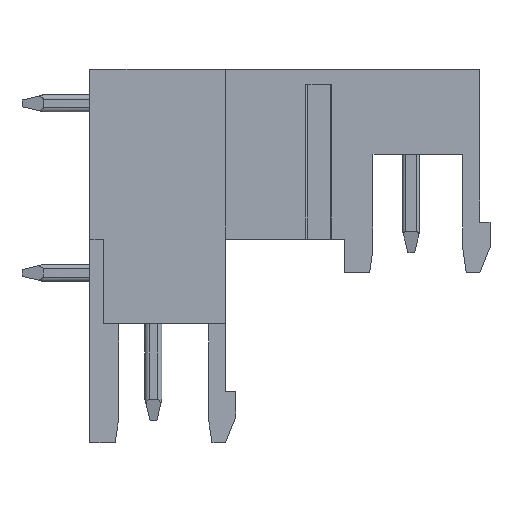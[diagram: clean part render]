
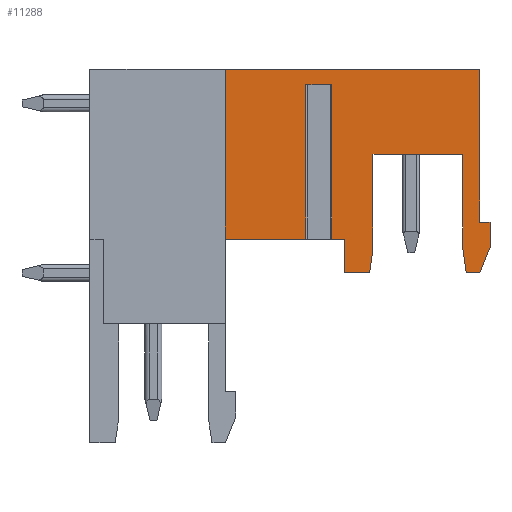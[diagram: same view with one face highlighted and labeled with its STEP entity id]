
A CAD part, front view. The second image highlights one B-rep face of the part: STEP entity #11288.
In plain terms, the highlighted planar face has unit normal (0, -1, 0).
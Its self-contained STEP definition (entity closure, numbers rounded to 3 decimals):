
#57=DIRECTION('',(1.,0.,0.));
#58=VECTOR('',#57,4.736);
#59=CARTESIAN_POINT('',(8.,5.,-10.));
#60=LINE('',#59,#58);
#99=DIRECTION('',(1.,0.,0.));
#100=VECTOR('',#99,0.736);
#101=CARTESIAN_POINT('',(14.264,5.,-10.));
#102=LINE('',#101,#100);
#1893=DIRECTION('',(-1.,0.,0.));
#1894=VECTOR('',#1893,15.);
#1895=CARTESIAN_POINT('',(23.,5.,0.));
#1896=LINE('',#1895,#1894);
#2663=DIRECTION('',(0.,0.,-1.));
#2664=VECTOR('',#2663,2.);
#2665=CARTESIAN_POINT('',(15.,5.,-10.));
#2666=LINE('',#2665,#2664);
#2675=DIRECTION('',(-1.,0.,0.));
#2676=VECTOR('',#2675,5.3);
#2677=CARTESIAN_POINT('',(22.,5.,-5.));
#2678=LINE('',#2677,#2676);
#2679=DIRECTION('',(0.,0.,-1.));
#2680=VECTOR('',#2679,5.6);
#2681=CARTESIAN_POINT('',(16.7,5.,-5.));
#2682=LINE('',#2681,#2680);
#2683=DIRECTION('',(-0.141,0.,-0.99));
#2684=VECTOR('',#2683,1.414);
#2685=CARTESIAN_POINT('',(16.7,5.,-10.6));
#2686=LINE('',#2685,#2684);
#2687=DIRECTION('',(-1.,0.,0.));
#2688=VECTOR('',#2687,1.527);
#2689=CARTESIAN_POINT('',(14.264,5.,-0.9));
#2690=LINE('',#2689,#2688);
#2691=DIRECTION('',(-0.371,0.,-0.928));
#2692=VECTOR('',#2691,1.616);
#2693=CARTESIAN_POINT('',(23.6,5.,-10.5));
#2694=LINE('',#2693,#2692);
#2695=DIRECTION('',(-0.141,0.,0.99));
#2696=VECTOR('',#2695,1.414);
#2697=CARTESIAN_POINT('',(22.2,5.,-12.));
#2698=LINE('',#2697,#2696);
#2703=DIRECTION('',(0.,0.,-1.));
#2704=VECTOR('',#2703,5.6);
#2705=CARTESIAN_POINT('',(22.,5.,-5.));
#2706=LINE('',#2705,#2704);
#2907=DIRECTION('',(1.,0.,0.));
#2908=VECTOR('',#2907,1.5);
#2909=CARTESIAN_POINT('',(15.,5.,-12.));
#2910=LINE('',#2909,#2908);
#3097=DIRECTION('',(0.,0.,1.));
#3098=VECTOR('',#3097,1.5);
#3099=CARTESIAN_POINT('',(23.6,5.,-10.5));
#3100=LINE('',#3099,#3098);
#3217=DIRECTION('',(1.,0.,0.));
#3218=VECTOR('',#3217,0.8);
#3219=CARTESIAN_POINT('',(22.2,5.,-12.));
#3220=LINE('',#3219,#3218);
#3225=DIRECTION('',(-1.,0.,0.));
#3226=VECTOR('',#3225,0.6);
#3227=CARTESIAN_POINT('',(23.6,5.,-9.));
#3228=LINE('',#3227,#3226);
#3233=DIRECTION('',(0.,0.,1.));
#3234=VECTOR('',#3233,9.);
#3235=CARTESIAN_POINT('',(23.,5.,-9.));
#3236=LINE('',#3235,#3234);
#3809=DIRECTION('',(0.,0.,-1.));
#3810=VECTOR('',#3809,9.1);
#3811=CARTESIAN_POINT('',(14.264,5.,-0.9));
#3812=LINE('',#3811,#3810);
#3837=DIRECTION('',(0.,0.,1.));
#3838=VECTOR('',#3837,9.1);
#3839=CARTESIAN_POINT('',(12.736,5.,-10.));
#3840=LINE('',#3839,#3838);
#3887=DIRECTION('',(0.,0.,-1.));
#3888=VECTOR('',#3887,10.);
#3889=CARTESIAN_POINT('',(8.,5.,0.));
#3890=LINE('',#3889,#3888);
#5923=CARTESIAN_POINT('',(12.736,5.,-10.));
#5925=VERTEX_POINT('',#5923);
#5941=CARTESIAN_POINT('',(14.264,5.,-10.));
#5942=VERTEX_POINT('',#5941);
#5943=CARTESIAN_POINT('',(15.,5.,-10.));
#5944=VERTEX_POINT('',#5943);
#5953=CARTESIAN_POINT('',(8.,5.,-10.));
#5954=VERTEX_POINT('',#5953);
#5957=CARTESIAN_POINT('',(12.736,5.,-0.9));
#5958=VERTEX_POINT('',#5957);
#5961=CARTESIAN_POINT('',(14.264,5.,-0.9));
#5962=VERTEX_POINT('',#5961);
#5975=CARTESIAN_POINT('',(8.,5.,0.));
#5976=VERTEX_POINT('',#5975);
#5977=CARTESIAN_POINT('',(23.,5.,0.));
#5978=VERTEX_POINT('',#5977);
#5979=CARTESIAN_POINT('',(23.,5.,-9.));
#5980=VERTEX_POINT('',#5979);
#5981=CARTESIAN_POINT('',(23.6,5.,-9.));
#5982=VERTEX_POINT('',#5981);
#5983=CARTESIAN_POINT('',(23.6,5.,-10.5));
#5984=VERTEX_POINT('',#5983);
#5985=CARTESIAN_POINT('',(23.,5.,-12.));
#5986=VERTEX_POINT('',#5985);
#5987=CARTESIAN_POINT('',(22.2,5.,-12.));
#5988=VERTEX_POINT('',#5987);
#5989=CARTESIAN_POINT('',(22.,5.,-10.6));
#5990=VERTEX_POINT('',#5989);
#5991=CARTESIAN_POINT('',(16.7,5.,-10.6));
#5992=CARTESIAN_POINT('',(16.5,5.,-12.));
#5993=VERTEX_POINT('',#5991);
#5994=VERTEX_POINT('',#5992);
#5995=CARTESIAN_POINT('',(15.,5.,-12.));
#5996=VERTEX_POINT('',#5995);
#7174=CARTESIAN_POINT('',(22.,5.,-5.));
#7176=VERTEX_POINT('',#7174);
#7199=CARTESIAN_POINT('',(16.7,5.,-5.));
#7201=VERTEX_POINT('',#7199);
#11247=CARTESIAN_POINT('',(0.,5.,0.));
#11248=DIRECTION('',(0.,1.,0.));
#11249=DIRECTION('',(1.,0.,0.));
#11250=AXIS2_PLACEMENT_3D('',#11247,#11248,#11249);
#11251=PLANE('',#11250);
#11253=ORIENTED_EDGE('',*,*,#11252,.F.);
#11255=ORIENTED_EDGE('',*,*,#11254,.T.);
#11257=ORIENTED_EDGE('',*,*,#11256,.T.);
#11259=ORIENTED_EDGE('',*,*,#11258,.T.);
#11261=ORIENTED_EDGE('',*,*,#11260,.F.);
#11262=ORIENTED_EDGE('',*,*,#11231,.F.);
#11263=ORIENTED_EDGE('',*,*,#7995,.F.);
#11265=ORIENTED_EDGE('',*,*,#11264,.F.);
#11267=ORIENTED_EDGE('',*,*,#11266,.T.);
#11269=ORIENTED_EDGE('',*,*,#11268,.F.);
#11270=ORIENTED_EDGE('',*,*,#7975,.F.);
#11272=ORIENTED_EDGE('',*,*,#11271,.F.);
#11273=ORIENTED_EDGE('',*,*,#10233,.F.);
#11275=ORIENTED_EDGE('',*,*,#11274,.F.);
#11277=ORIENTED_EDGE('',*,*,#11276,.F.);
#11279=ORIENTED_EDGE('',*,*,#11278,.F.);
#11281=ORIENTED_EDGE('',*,*,#11280,.T.);
#11283=ORIENTED_EDGE('',*,*,#11282,.F.);
#11285=ORIENTED_EDGE('',*,*,#11284,.T.);
#11286=EDGE_LOOP('',(#11253,#11255,#11257,#11259,#11261,#11262,#11263,#11265,
#11267,#11269,#11270,#11272,#11273,#11275,#11277,#11279,#11281,#11283,#11285));
#11287=FACE_OUTER_BOUND('',#11286,.F.);
#11288=ADVANCED_FACE('',(#11287),#11251,.F.);
#7975=EDGE_CURVE('',#5954,#5925,#60,.T.);
#7995=EDGE_CURVE('',#5942,#5944,#102,.T.);
#10233=EDGE_CURVE('',#5978,#5976,#1896,.T.);
#11231=EDGE_CURVE('',#5944,#5996,#2666,.T.);
#11252=EDGE_CURVE('',#7176,#5990,#2706,.T.);
#11254=EDGE_CURVE('',#7176,#7201,#2678,.T.);
#11256=EDGE_CURVE('',#7201,#5993,#2682,.T.);
#11258=EDGE_CURVE('',#5993,#5994,#2686,.T.);
#11260=EDGE_CURVE('',#5996,#5994,#2910,.T.);
#11264=EDGE_CURVE('',#5962,#5942,#3812,.T.);
#11266=EDGE_CURVE('',#5962,#5958,#2690,.T.);
#11268=EDGE_CURVE('',#5925,#5958,#3840,.T.);
#11271=EDGE_CURVE('',#5976,#5954,#3890,.T.);
#11274=EDGE_CURVE('',#5980,#5978,#3236,.T.);
#11276=EDGE_CURVE('',#5982,#5980,#3228,.T.);
#11278=EDGE_CURVE('',#5984,#5982,#3100,.T.);
#11280=EDGE_CURVE('',#5984,#5986,#2694,.T.);
#11282=EDGE_CURVE('',#5988,#5986,#3220,.T.);
#11284=EDGE_CURVE('',#5988,#5990,#2698,.T.);
